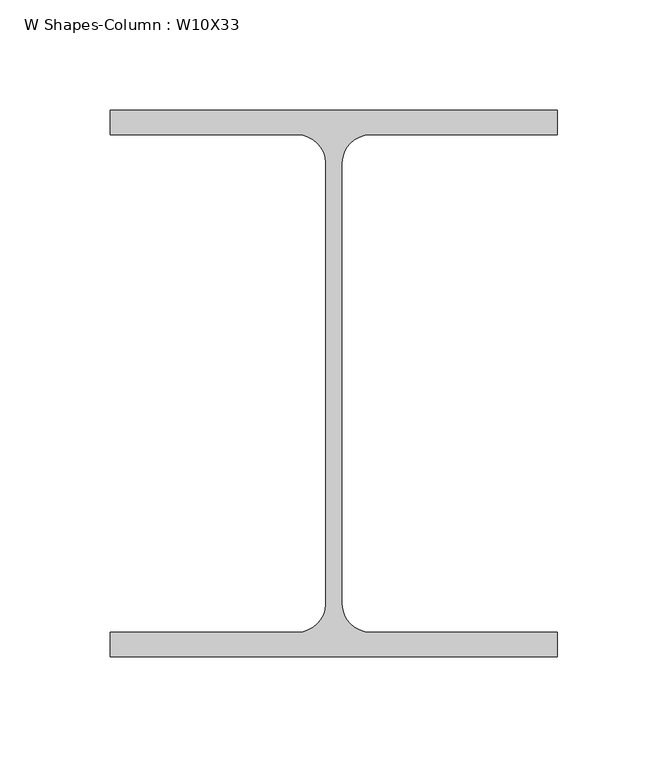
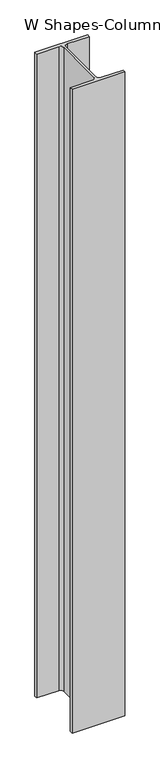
"""IFC4 building model written with IfcOpenShell, lengths in millimetres: column geometry, W Shapes-Column : W10X33."""

from ifc_helpers import new_model, si_unit, point, frame, frame_2d, origin, place, context, project, spatial, polyline, circle_curve, trimmed, segment, composite_curve, outline, extrude, source, transform, mapped, element, save


def w_shapes_column_w10x33_143f3a9e(model_context):
    return source(origin(), model_context, "Body", "SweptSolid", [
        extrude(outline(composite_curve([segment(polyline([(101.092, 123.571), (101.092, 112.522), (16.383, 112.522)]), True, "CONTINUOUS"), segment(trimmed(circle_curve(frame_2d((16.383, 99.822)), 12.7), [point((16.383, 112.522))], [point((3.683, 99.822))], True, "CARTESIAN"), True, "CONTINUOUS"), segment(polyline([(3.683, 99.822), (3.683, -99.822)]), True, "CONTINUOUS"), segment(trimmed(circle_curve(frame_2d((16.383, -99.822)), 12.7), [point((3.683, -99.822))], [point((16.383, -112.522))], True, "CARTESIAN"), True, "CONTINUOUS"), segment(polyline([(16.383, -112.522), (101.092, -112.522), (101.092, -123.571), (-101.092, -123.571), (-101.092, -112.522), (-16.383, -112.522)]), True, "CONTINUOUS"), segment(trimmed(circle_curve(frame_2d((-16.383, -99.822)), 12.7), [point((-16.383, -112.522))], [point((-3.683, -99.822))], True, "CARTESIAN"), True, "CONTINUOUS"), segment(polyline([(-3.683, -99.822), (-3.683, 99.822)]), True, "CONTINUOUS"), segment(trimmed(circle_curve(frame_2d((-16.383, 99.822)), 12.7), [point((-3.683, 99.822))], [point((-16.383, 112.522))], True, "CARTESIAN"), True, "CONTINUOUS"), segment(polyline([(-16.383, 112.522), (-101.092, 112.522), (-101.092, 123.571), (101.092, 123.571)]), True, "CONTINUOUS")], self_intersect=False)), frame((0.0, 0.0, 13411.2), z_axis=(0.0, 0.0, 1.0), x_axis=(1.0, 0.0, 0.0)), (0.0, 0.0, 1.0), 2612.8560841),
    ])


if __name__ == "__main__":
    model = new_model("IFC4")
    model_context = context("Model", 3, world=origin())
    ifc_project = project(units=[si_unit("LENGTHUNIT", "METRE", prefix="MILLI")], contexts=[model_context])
    site = spatial("IfcSite", under=ifc_project)
    building = spatial("IfcBuilding", under=site)
    placement = place(None, origin())
    w_shapes_column_w10x33_shape = w_shapes_column_w10x33_143f3a9e(model_context)
    element("IfcColumn", 1, ObjectType="W Shapes-Column : W10X33", at=placement, inside=building, context=model_context, shape_type="MappedRepresentation", body=[
        mapped(w_shapes_column_w10x33_shape, transform((0.0, 0.0, 0.0), x_axis=(1.0, 0.0, 0.0), y_axis=(0.0, 1.0, 0.0), z_axis=(0.0, 0.0, 1.0))),
    ])
    save(model, "model.ifc")
